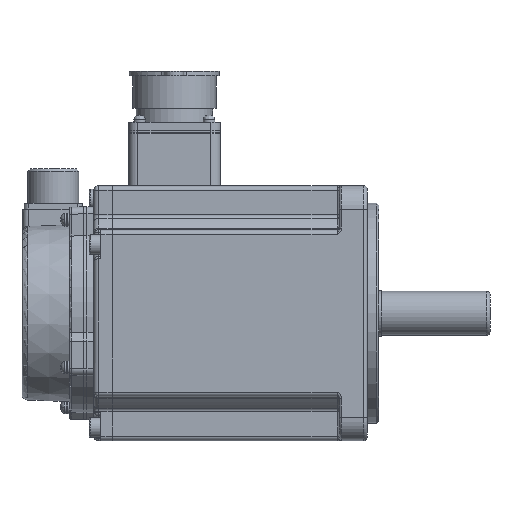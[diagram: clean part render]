
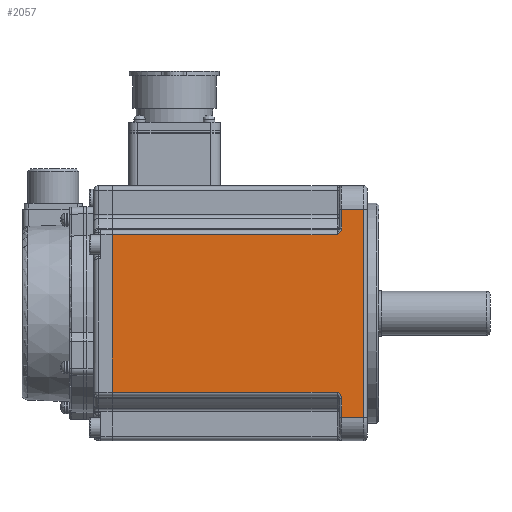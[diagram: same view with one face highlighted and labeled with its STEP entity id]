
A CAD part, left-side view. The second image highlights one B-rep face of the part: STEP entity #2057.
In plain terms, the highlighted planar face has unit normal (-1, 0, 0).
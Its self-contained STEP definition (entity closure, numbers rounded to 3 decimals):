
#1091=PLANE('',#18406);
#1485=B_SPLINE_CURVE_WITH_KNOTS('',3,(#27625,#27626,#27627,#27628,#27629,
#27630,#27631,#27632,#27633,#27634,#27635,#27636,#27637,#27638,#27639,#27640,
#27641,#27642,#27643),.UNSPECIFIED.,.F.,.F.,(4,3,3,3,3,3,4),(0.,0.002,
0.104,0.205,0.569,0.789,
1.),.UNSPECIFIED.);
#1486=B_SPLINE_CURVE_WITH_KNOTS('',3,(#27655,#27656,#27657,#27658,#27659,
#27660,#27661,#27662,#27663,#27664,#27665,#27666,#27667,#27668,#27669,#27670,
#27671,#27672,#27673),.UNSPECIFIED.,.F.,.F.,(4,3,3,3,3,3,4),(0.,0.211,
0.431,0.795,0.896,0.998,
1.),.UNSPECIFIED.);
#2057=ADVANCED_FACE('',(#3538),#1091,.T.);
#3538=FACE_OUTER_BOUND('',#4638,.T.);
#4638=EDGE_LOOP('',(#8350,#8351,#8352,#8353,#8354,#8355,#8356,#8357,#8358,
#8359));
#8350=ORIENTED_EDGE('',*,*,#14052,.T.);
#8351=ORIENTED_EDGE('',*,*,#14054,.F.);
#8352=ORIENTED_EDGE('',*,*,#13951,.T.);
#8353=ORIENTED_EDGE('',*,*,#14055,.T.);
#8354=ORIENTED_EDGE('',*,*,#14056,.T.);
#8355=ORIENTED_EDGE('',*,*,#14057,.T.);
#8356=ORIENTED_EDGE('',*,*,#14058,.T.);
#8357=ORIENTED_EDGE('',*,*,#14059,.T.);
#8358=ORIENTED_EDGE('',*,*,#14060,.T.);
#8359=ORIENTED_EDGE('',*,*,#14061,.T.);
#12155=VERTEX_POINT('',#27309);
#12156=VERTEX_POINT('',#27310);
#12233=VERTEX_POINT('',#27619);
#12234=VERTEX_POINT('',#27621);
#12235=VERTEX_POINT('',#27644);
#12236=VERTEX_POINT('',#27646);
#12237=VERTEX_POINT('',#27648);
#12238=VERTEX_POINT('',#27650);
#12239=VERTEX_POINT('',#27652);
#12240=VERTEX_POINT('',#27654);
#13951=EDGE_CURVE('',#12155,#12156,#16023,.T.);
#14052=EDGE_CURVE('',#12234,#12233,#16083,.T.);
#14054=EDGE_CURVE('',#12155,#12233,#16084,.T.);
#14055=EDGE_CURVE('',#12156,#12235,#1485,.T.);
#14056=EDGE_CURVE('',#12235,#12236,#16085,.T.);
#14057=EDGE_CURVE('',#12236,#12237,#16086,.T.);
#14058=EDGE_CURVE('',#12237,#12238,#16087,.T.);
#14059=EDGE_CURVE('',#12238,#12239,#16088,.T.);
#14060=EDGE_CURVE('',#12239,#12240,#16089,.T.);
#14061=EDGE_CURVE('',#12240,#12234,#1486,.T.);
#16023=LINE('',#27308,#17019);
#16083=LINE('',#27620,#17079);
#16084=LINE('',#27624,#17080);
#16085=LINE('',#27645,#17081);
#16086=LINE('',#27647,#17082);
#16087=LINE('',#27649,#17083);
#16088=LINE('',#27651,#17084);
#16089=LINE('',#27653,#17085);
#17019=VECTOR('',#21639,1.);
#17079=VECTOR('',#21817,1.);
#17080=VECTOR('',#21822,1.);
#17081=VECTOR('',#21823,1.);
#17082=VECTOR('',#21824,1.);
#17083=VECTOR('',#21825,1.);
#17084=VECTOR('',#21826,1.);
#17085=VECTOR('',#21827,1.);
#18406=AXIS2_PLACEMENT_3D('',#27674,#21828,#21829);
#21639=DIRECTION('',(0.,-1.,0.));
#21817=DIRECTION('',(0.,1.,0.));
#21822=DIRECTION('',(0.,0.,1.));
#21823=DIRECTION('',(0.,0.,-1.));
#21824=DIRECTION('',(0.,-1.,0.));
#21825=DIRECTION('',(0.,0.,1.));
#21826=DIRECTION('',(0.,1.,0.));
#21827=DIRECTION('',(0.,0.,-1.));
#21828=DIRECTION('',(-1.,0.,0.));
#21829=DIRECTION('',(0.,0.,-1.));
#27308=CARTESIAN_POINT('',(150.124,218.222,-125.192));
#27309=CARTESIAN_POINT('',(150.124,313.922,-125.192));
#27310=CARTESIAN_POINT('',(150.124,216.922,-125.192));
#27619=CARTESIAN_POINT('',(150.124,313.922,-57.192));
#27620=CARTESIAN_POINT('',(150.124,218.222,-57.192));
#27621=CARTESIAN_POINT('',(150.124,216.922,-57.192));
#27624=CARTESIAN_POINT('',(150.124,313.922,-91.192));
#27625=CARTESIAN_POINT('',(150.124,216.922,-125.192));
#27626=CARTESIAN_POINT('',(150.124,216.92,-125.194));
#27627=CARTESIAN_POINT('',(150.124,216.917,-125.196));
#27628=CARTESIAN_POINT('',(150.124,216.915,-125.197));
#27629=CARTESIAN_POINT('',(150.124,216.815,-125.268));
#27630=CARTESIAN_POINT('',(150.124,216.715,-125.339));
#27631=CARTESIAN_POINT('',(150.124,216.616,-125.411));
#27632=CARTESIAN_POINT('',(150.124,216.517,-125.482));
#27633=CARTESIAN_POINT('',(150.124,216.419,-125.555));
#27634=CARTESIAN_POINT('',(150.124,216.323,-125.631));
#27635=CARTESIAN_POINT('',(150.124,215.98,-125.899));
#27636=CARTESIAN_POINT('',(150.124,215.654,-126.204));
#27637=CARTESIAN_POINT('',(150.124,215.406,-126.562));
#27638=CARTESIAN_POINT('',(150.124,215.255,-126.78));
#27639=CARTESIAN_POINT('',(150.124,215.13,-127.019));
#27640=CARTESIAN_POINT('',(150.124,215.046,-127.271));
#27641=CARTESIAN_POINT('',(150.124,214.966,-127.511));
#27642=CARTESIAN_POINT('',(150.124,214.922,-127.767));
#27643=CARTESIAN_POINT('',(150.124,214.922,-128.021));
#27644=CARTESIAN_POINT('',(150.124,214.922,-128.021));
#27645=CARTESIAN_POINT('',(150.124,214.922,-127.192));
#27646=CARTESIAN_POINT('',(150.124,214.922,-136.192));
#27647=CARTESIAN_POINT('',(150.124,203.922,-136.192));
#27648=CARTESIAN_POINT('',(150.124,205.422,-136.192));
#27649=CARTESIAN_POINT('',(150.124,205.422,-46.192));
#27650=CARTESIAN_POINT('',(150.124,205.422,-46.192));
#27651=CARTESIAN_POINT('',(150.124,203.922,-46.192));
#27652=CARTESIAN_POINT('',(150.124,214.922,-46.192));
#27653=CARTESIAN_POINT('',(150.124,214.922,-127.192));
#27654=CARTESIAN_POINT('',(150.124,214.922,-54.364));
#27655=CARTESIAN_POINT('',(150.124,214.922,-54.364));
#27656=CARTESIAN_POINT('',(150.124,214.922,-54.617));
#27657=CARTESIAN_POINT('',(150.124,214.966,-54.873));
#27658=CARTESIAN_POINT('',(150.124,215.046,-55.114));
#27659=CARTESIAN_POINT('',(150.124,215.13,-55.365));
#27660=CARTESIAN_POINT('',(150.124,215.255,-55.605));
#27661=CARTESIAN_POINT('',(150.124,215.406,-55.822));
#27662=CARTESIAN_POINT('',(150.124,215.654,-56.18));
#27663=CARTESIAN_POINT('',(150.124,215.98,-56.485));
#27664=CARTESIAN_POINT('',(150.124,216.323,-56.754));
#27665=CARTESIAN_POINT('',(150.124,216.419,-56.829));
#27666=CARTESIAN_POINT('',(150.124,216.517,-56.902));
#27667=CARTESIAN_POINT('',(150.124,216.616,-56.974));
#27668=CARTESIAN_POINT('',(150.124,216.715,-57.046));
#27669=CARTESIAN_POINT('',(150.124,216.815,-57.116));
#27670=CARTESIAN_POINT('',(150.124,216.915,-57.187));
#27671=CARTESIAN_POINT('',(150.124,216.917,-57.189));
#27672=CARTESIAN_POINT('',(150.124,216.92,-57.19));
#27673=CARTESIAN_POINT('',(150.124,216.922,-57.192));
#27674=CARTESIAN_POINT('',(150.124,218.222,-127.192));
